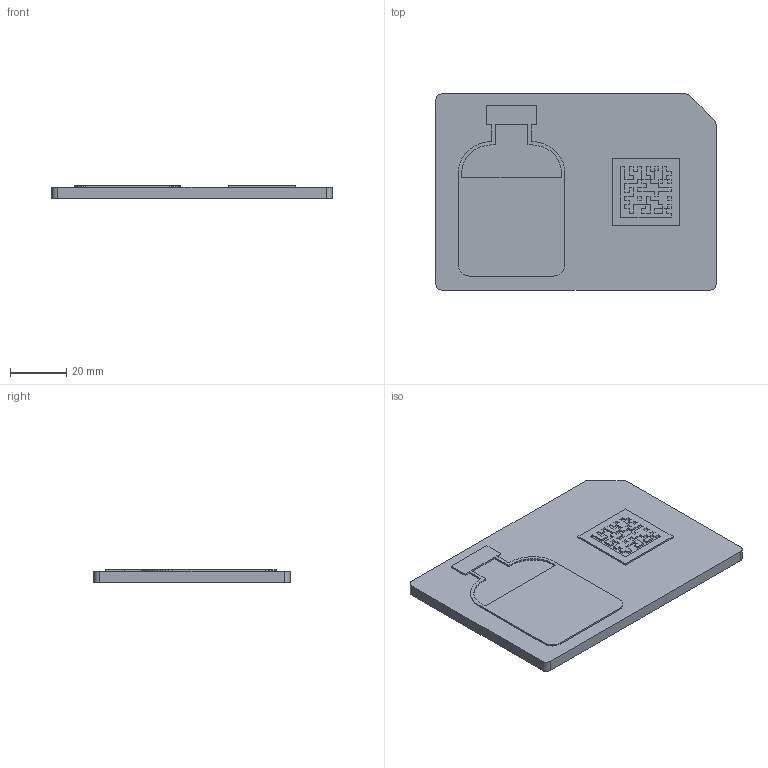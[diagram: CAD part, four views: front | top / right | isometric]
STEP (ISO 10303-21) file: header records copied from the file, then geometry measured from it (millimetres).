
FILE_DESCRIPTION(('Open CASCADE Model'),'2;1');
FILE_NAME('Open CASCADE Shape Model','2026-10-14T18:10:02',('Author'),( 'Open CASCADE'),'Open CASCADE STEP processor 7.9','Open CASCADE 7.9' ,'Unknown');
FILE_SCHEMA(('AUTOMOTIVE_DESIGN { 1 0 10303 214 1 1 1 1 }'));
Length unit declared in the file: millimetre
Products named in the file (3): SN-4823; SN-4823_base_dark; SN-4823_features_red
Assembly tree (2 placements, depth 2):
  SN-4823
    SN-4823_base_dark
    SN-4823_features_red
Bounding box: 100 x 70 x 4.6 mm (x, y, z)
Volume: 28941 mm3; surface area: 20454.1 mm2
Topology: 3 solids, 3 shells, 465 faces, 1338 edges, 892 vertices
Faces by surface type: plane 460, cylinder 5
Entity records: 31997 total; most frequent: CARTESIAN_POINT 5822, DIRECTION 4522, LINE 3558, VECTOR 3558, ORIENTED_EDGE 2676, PCURVE 2676, DEFINITIONAL_REPRESENTATION 2676, EDGE_CURVE 1338
